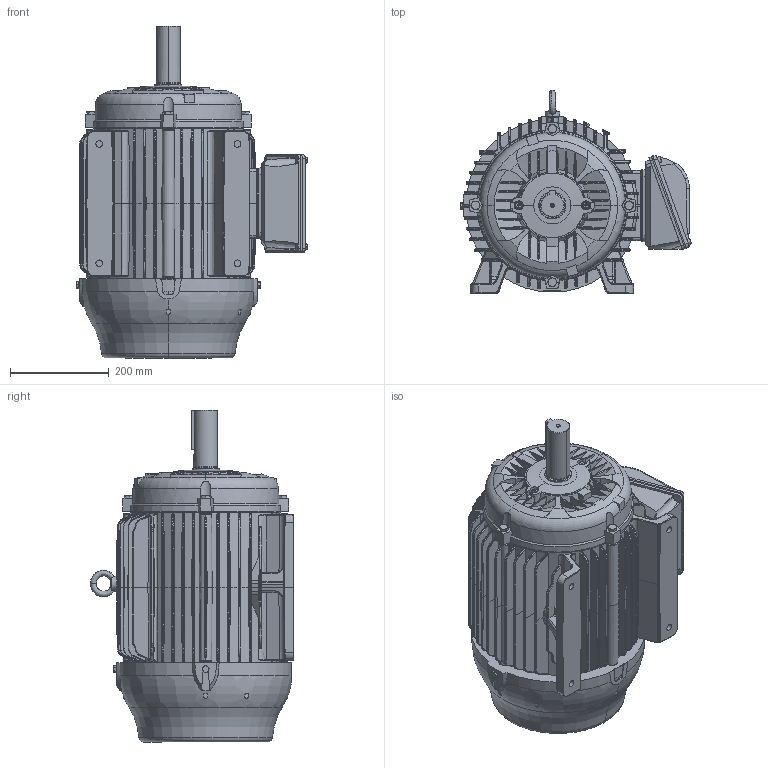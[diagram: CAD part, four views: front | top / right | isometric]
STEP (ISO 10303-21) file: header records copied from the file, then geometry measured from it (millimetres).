
FILE_DESCRIPTION (( 'STEP AP203' ), '1' );
FILE_NAME ('a76e.STEP', '2020-08-27T15:22:52', ( 'Usuário do Windows' ), ( 'WEG Equipamentos Elétricos' ), 'SwSTEP 2.0', 'SolidWorks 2018', '' );
FILE_SCHEMA (( 'CONFIG_CONTROL_DESIGN' ));
Length unit declared in the file: millimetre
Products named in the file (7): W22_FRAME_284T_WITH_FOOT_LEFT; W22_DE_SHAFT_284T; W22_DE_ENDSHIELD_284T_STANDARD; W22_TERMINAL_BOX_284T; W22_FAN_COVER_284T; REFERENCE_SOLID; a76e
Assembly tree (6 placements, depth 2):
  a76e
    W22_FRAME_284T_WITH_FOOT_LEFT
    W22_DE_ENDSHIELD_284T_STANDARD
    W22_FAN_COVER_284T
    W22_DE_SHAFT_284T
    W22_TERMINAL_BOX_284T
    REFERENCE_SOLID
Bounding box: 466.9 x 410.8 x 671.08 mm (x, y, z)
Volume: 46505499.7 mm3; surface area: 2106333.6 mm2
Topology: 23 solids, 29 shells, 2868 faces, 7281 edges, 4548 vertices
Faces by surface type: plane 876, cylinder 803, bspline 793, cone 302, torus 84, sphere 10
Entity records: 117957 total; most frequent: CARTESIAN_POINT 55747, ORIENTED_EDGE 14558, DIRECTION 10832, EDGE_CURVE 7279, VERTEX_POINT 4548, AXIS2_PLACEMENT_3D 4341, EDGE_LOOP 2969, ADVANCED_FACE 2868
